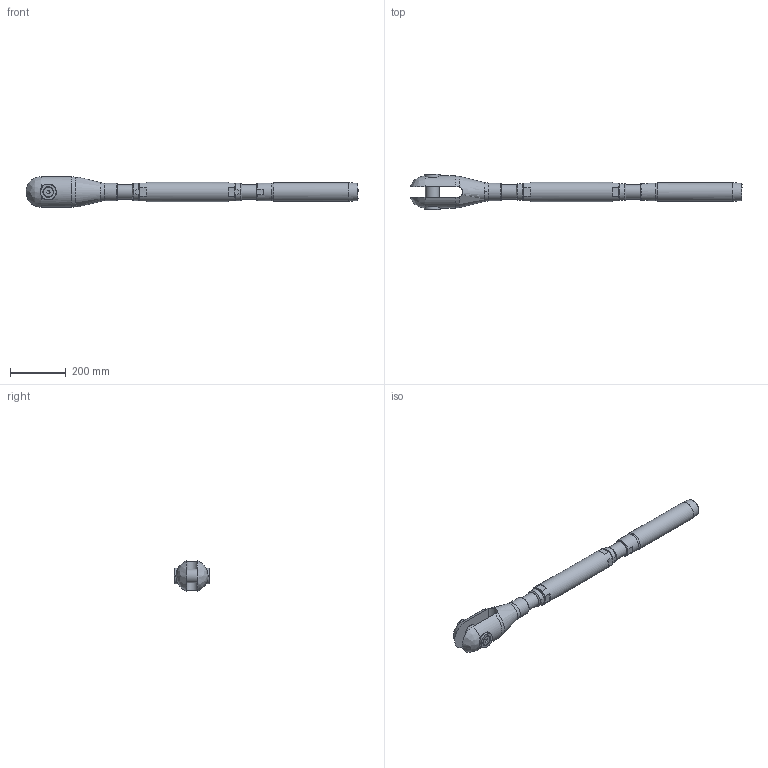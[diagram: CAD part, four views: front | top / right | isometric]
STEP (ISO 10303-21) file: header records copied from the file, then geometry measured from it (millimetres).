
FILE_DESCRIPTION(/* description */ (''),/* implementation_level */ '2;1');
FILE_NAME(/* name */ 'TBC 36_42CrMo4',/* time_stamp */ '2023-05-23T18:16:51+02:00',/* author */ (''),/* organization */ (''),/* preprocessor_version */ 'ST-DEVELOPER v16.5',/* originating_system */ 'Rhino 7.22',/* authorisation */ '');
FILE_SCHEMA (('CONFIG_CONTROL_DESIGN'));
Length unit declared in the file: millimetre
Products named in the file (1): Document
Bounding box: 1187.09 x 126.07 x 108.19 mm (x, y, z)
Volume: 4431075.9 mm3; surface area: 479020.3 mm2
Topology: 10 solids, 10 shells, 142 faces, 389 edges, 269 vertices
Faces by surface type: plane 65, bspline 42, cylinder 35
Full cylindrical faces by diameter (mm): 17.294 x2, 20 x2, 21 x2, 35.4 x2, 48.752 x4, 49 x1, 51 x2, 52 x2, 56 x1, 57 x2, 63.5 x2, 66.8 x1, 70 x1
Entity records: 6053 total; most frequent: CARTESIAN_POINT 3594, ORIENTED_EDGE 770, EDGE_CURVE 385, VERTEX_POINT 269, EDGE_LOOP 162, B_SPLINE_CURVE_WITH_KNOTS 159, ADVANCED_FACE 142, FACE_OUTER_BOUND 142
